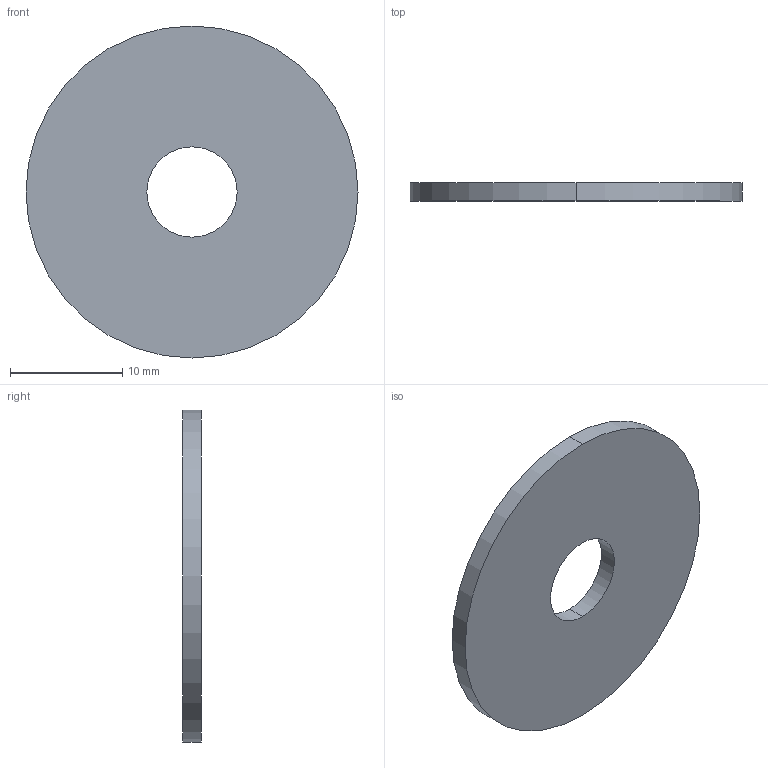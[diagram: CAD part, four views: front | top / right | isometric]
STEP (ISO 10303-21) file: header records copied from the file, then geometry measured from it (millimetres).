
FILE_DESCRIPTION (( 'STEP AP203' ), '1' );
FILE_NAME ('SWERVE-WASHER.STEP', '2007-08-25T21:57:47', ( 'Innovation First, Inc.' ), ( 'Innovation First, Inc.' ), 'SwSTEP 2.0', 'SolidWorks 2006052', '' );
FILE_SCHEMA (( 'CONFIG_CONTROL_DESIGN' ));
Length unit declared in the file: inch
Products named in the file (1): SWERVE-WASHER
Bounding box: 29.51 x 1.63 x 29.51 mm (x, y, z)
Volume: 1029.9 mm3; surface area: 1458.9 mm2
Topology: 1 solids, 1 shells, 6 faces, 12 edges, 8 vertices
Faces by surface type: cylinder 4, plane 2
Entity records: 247 total; most frequent: DIRECTION 34, CARTESIAN_POINT 27, ORIENTED_EDGE 24, AXIS2_PLACEMENT_3D 15, EDGE_CURVE 12, CIRCLE 8, VERTEX_POINT 8, EDGE_LOOP 8
